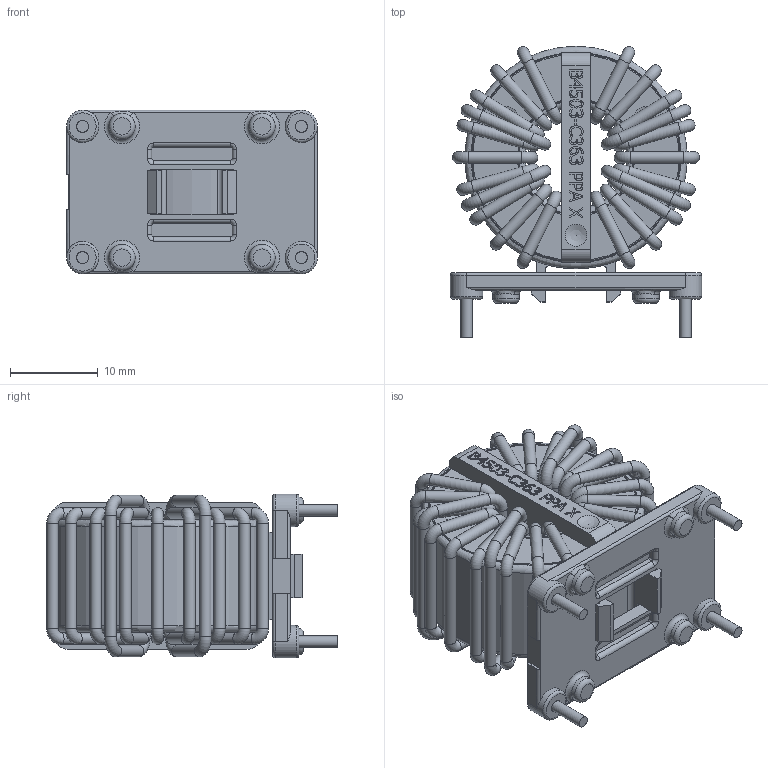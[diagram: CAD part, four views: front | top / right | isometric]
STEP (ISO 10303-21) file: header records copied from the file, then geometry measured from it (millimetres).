
FILE_DESCRIPTION(/* description */ (''),/* implementation_level */ '2;1');
FILE_NAME(/* name */ 'G:\KB-FTKon\CAD\Inventor\Bauelementnummer\6127-X018\6127-X018_Shrinkwrap_1.stp',/* time_stamp */ '2019-04-30T11:12:27+02:00',/* author */ ('de041100'),/* organization */ (''),/* preprocessor_version */ 'ST-DEVELOPER v17.2',/* originating_system */ 'Autodesk Inventor 2019',/* authorisation */ '');
FILE_SCHEMA (('AUTOMOTIVE_DESIGN { 1 0 10303 214 3 1 1 }'));
Length unit declared in the file: millimetre
Products named in the file (1): 6127-X018_Shrinkwrap_1
Bounding box: 28.7 x 33.25 x 18.7 mm (x, y, z)
Volume: 7989.2 mm3; surface area: 9020.7 mm2
Topology: 23 solids, 23 shells, 1368 faces, 3746 edges, 2430 vertices
Faces by surface type: plane 563, bspline 416, cylinder 207, torus 164, sphere 14, cone 4
Full cylindrical faces by diameter (mm): 1.32 x88, 1.4 x4, 3 x4, 3.7 x4, 11.6 x1, 13.2 x1, 23.8 x1, 25.4 x1
Entity records: 48547 total; most frequent: CARTESIAN_POINT 14656, ORIENTED_EDGE 7474, DIRECTION 5573, EDGE_CURVE 3737, VERTEX_POINT 2430, LINE 1931, VECTOR 1931, AXIS2_PLACEMENT_3D 1821
